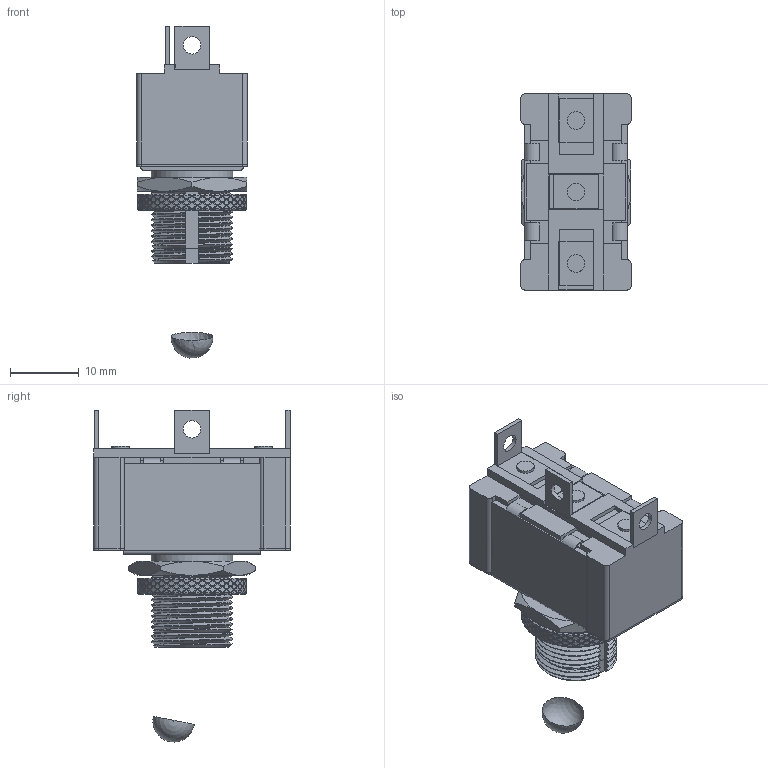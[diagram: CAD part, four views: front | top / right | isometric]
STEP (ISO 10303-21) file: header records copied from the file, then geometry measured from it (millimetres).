
FILE_DESCRIPTION(/* description */ (''),/* implementation_level */ '2;1');
FILE_NAME(/* name */ 'TA2-1D-DC-5 Base v7.stp',/* time_stamp */ '2023-10-04T09:55:03-07:00',/* author */ ('RaniahC'),/* organization */ (''),/* preprocessor_version */ 'ST-DEVELOPER v19.2',/* originating_system */ 'Autodesk Inventor 2024',/* authorisation */ '');
FILE_SCHEMA (('AUTOMOTIVE_DESIGN { 1 0 10303 214 3 1 1 }'));
Products named in the file (9): TA2-1D-DC-5 Base; Corner Bracket; Metal clip; Toggle Switch for TA2-1D-DC-5; 91843A109_Knurled Panel Nut; 7343K187_Toggle Switch; TA2-1D-DC-5 Sides; TA2-1D-DC-5 Height increase; Part168
Assembly tree (11 placements, depth 3):
  TA2-1D-DC-5 Base
    Corner Bracket  x3
    Metal clip
    Toggle Switch for TA2-1D-DC-5
      91843A109_Knurled Panel Nut
      7343K187_Toggle Switch
    TA2-1D-DC-5 Sides  x2
    TA2-1D-DC-5 Height increase
    Part168
Bounding box: 16.08 x 28.6 x 48.39 mm (x, y, z)
Volume: 8203 mm3; surface area: 7455.3 mm2
Topology: 12 solids, 12 shells, 1228 faces, 3274 edges, 2171 vertices
Faces by surface type: plane 926, cylinder 239, bspline 34, cone 26, torus 2, sphere 1
Full cylindrical faces by diameter (mm): 2.54 x9, 4.429 x1, 8.636 x2, 8.666 x3, 9.525 x3, 10.875 x1, 11.906 x1, 15.723 x1
Entity records: 60721 total; most frequent: CARTESIAN_POINT 29696, DIRECTION 6860, ORIENTED_EDGE 6388, EDGE_CURVE 3194, AXIS2_PLACEMENT_3D 2902, VERTEX_POINT 2119, EDGE_LOOP 1311, ELLIPSE 1280
